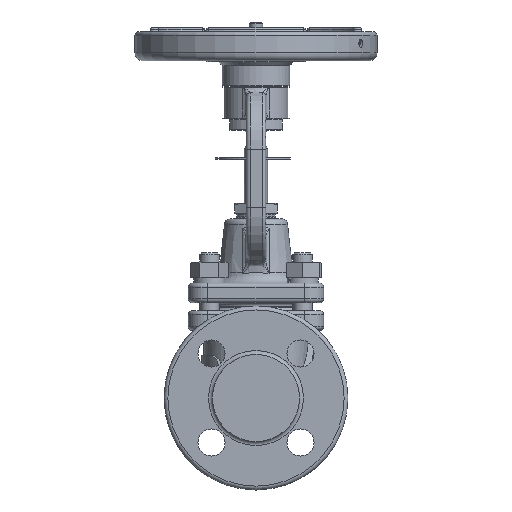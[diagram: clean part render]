
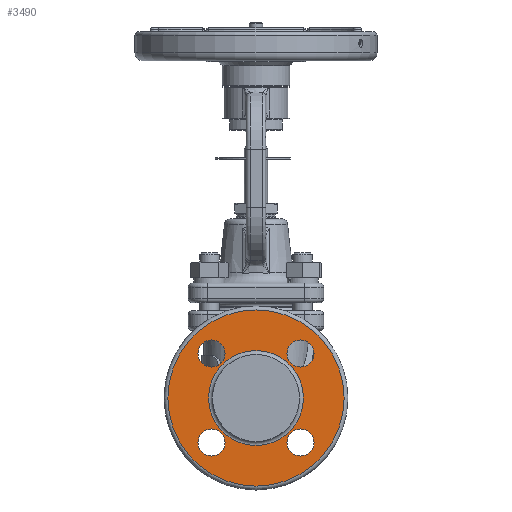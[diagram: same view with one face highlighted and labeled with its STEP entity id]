
A CAD part, front view. The second image highlights one B-rep face of the part: STEP entity #3490.
In plain terms, the highlighted planar face has unit normal (0, -1, 0).
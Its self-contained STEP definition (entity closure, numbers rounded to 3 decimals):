
#1968=PLANE('',#14214);
#3490=ADVANCED_FACE('',(#4562,#4563,#4564,#4565,#4566,#4567),#1968,.F.);
#4562=FACE_BOUND('',#4926,.T.);
#4563=FACE_BOUND('',#4927,.T.);
#4564=FACE_BOUND('',#4928,.T.);
#4565=FACE_BOUND('',#4929,.T.);
#4566=FACE_BOUND('',#4930,.T.);
#4567=FACE_BOUND('',#4931,.T.);
#4926=EDGE_LOOP('',(#6127));
#4927=EDGE_LOOP('',(#6128));
#4928=EDGE_LOOP('',(#6129));
#4929=EDGE_LOOP('',(#6130));
#4930=EDGE_LOOP('',(#6131));
#4931=EDGE_LOOP('',(#6132));
#6127=ORIENTED_EDGE('',*,*,#11463,.T.);
#6128=ORIENTED_EDGE('',*,*,#11464,.F.);
#6129=ORIENTED_EDGE('',*,*,#11465,.T.);
#6130=ORIENTED_EDGE('',*,*,#11466,.T.);
#6131=ORIENTED_EDGE('',*,*,#11467,.T.);
#6132=ORIENTED_EDGE('',*,*,#11468,.F.);
#10161=VERTEX_POINT('',#24227);
#10162=VERTEX_POINT('',#24229);
#10163=VERTEX_POINT('',#24231);
#10164=VERTEX_POINT('',#24233);
#10165=VERTEX_POINT('',#24235);
#10166=VERTEX_POINT('',#24237);
#11463=EDGE_CURVE('',#10161,#10161,#13436,.T.);
#11464=EDGE_CURVE('',#10162,#10162,#13437,.T.);
#11465=EDGE_CURVE('',#10163,#10163,#13438,.T.);
#11466=EDGE_CURVE('',#10164,#10164,#13439,.T.);
#11467=EDGE_CURVE('',#10165,#10165,#13440,.T.);
#11468=EDGE_CURVE('',#10166,#10166,#13441,.T.);
#13436=CIRCLE('',#14208,45.5);
#13437=CIRCLE('',#14209,7.);
#13438=CIRCLE('',#14210,24.5);
#13439=CIRCLE('',#14211,7.);
#13440=CIRCLE('',#14212,7.);
#13441=CIRCLE('',#14213,7.);
#14208=AXIS2_PLACEMENT_3D('',#24226,#15841,#15842);
#14209=AXIS2_PLACEMENT_3D('',#24228,#15843,#15844);
#14210=AXIS2_PLACEMENT_3D('',#24230,#15845,#15846);
#14211=AXIS2_PLACEMENT_3D('',#24232,#15847,#15848);
#14212=AXIS2_PLACEMENT_3D('',#24234,#15849,#15850);
#14213=AXIS2_PLACEMENT_3D('',#24236,#15851,#15852);
#14214=AXIS2_PLACEMENT_3D('',#24238,#15853,#15854);
#15841=DIRECTION('',(0.,-1.,0.));
#15842=DIRECTION('',(-1.,0.,0.));
#15843=DIRECTION('',(0.,-1.,0.));
#15844=DIRECTION('',(-1.,0.,0.));
#15845=DIRECTION('',(0.,1.,0.));
#15846=DIRECTION('',(-1.,0.,0.));
#15847=DIRECTION('',(0.,1.,0.));
#15848=DIRECTION('',(-1.,0.,0.));
#15849=DIRECTION('',(0.,1.,0.));
#15850=DIRECTION('',(-1.,0.,0.));
#15851=DIRECTION('',(0.,-1.,0.));
#15852=DIRECTION('',(-1.,0.,0.));
#15853=DIRECTION('',(0.,1.,0.));
#15854=DIRECTION('',(-1.,0.,0.));
#24226=CARTESIAN_POINT('',(0.,-63.,0.));
#24227=CARTESIAN_POINT('',(-45.5,-63.,0.));
#24228=CARTESIAN_POINT('',(22.981,-63.,-22.981));
#24229=CARTESIAN_POINT('',(15.981,-63.,-22.981));
#24230=CARTESIAN_POINT('',(0.,-63.,0.));
#24231=CARTESIAN_POINT('',(-24.5,-63.,0.));
#24232=CARTESIAN_POINT('',(-22.981,-63.,-22.981));
#24233=CARTESIAN_POINT('',(-29.981,-63.,-22.981));
#24234=CARTESIAN_POINT('',(22.981,-63.,22.981));
#24235=CARTESIAN_POINT('',(15.981,-63.,22.981));
#24236=CARTESIAN_POINT('',(-22.981,-63.,22.981));
#24237=CARTESIAN_POINT('',(-29.981,-63.,22.981));
#24238=CARTESIAN_POINT('',(0.,-63.,22.5));
